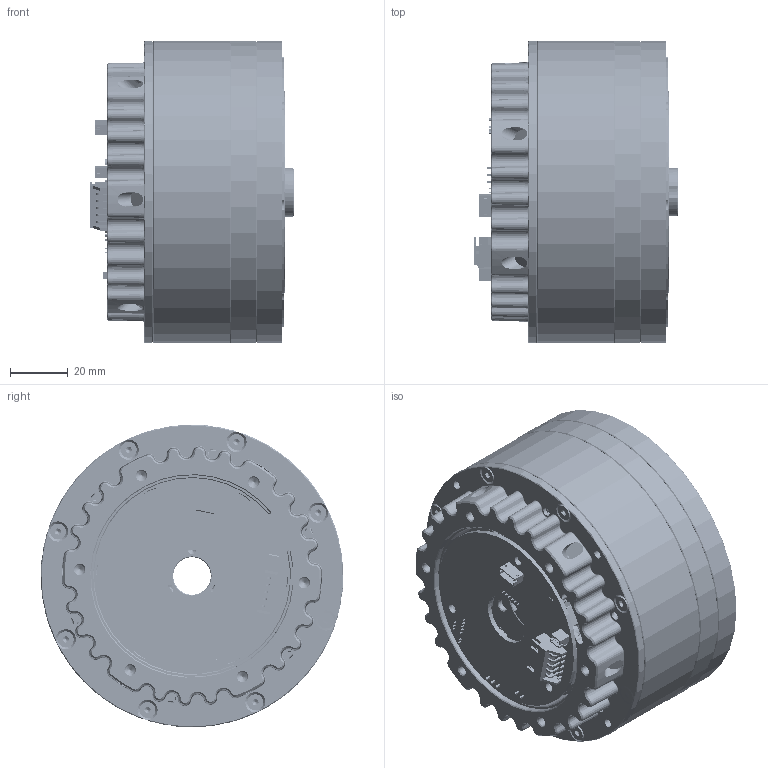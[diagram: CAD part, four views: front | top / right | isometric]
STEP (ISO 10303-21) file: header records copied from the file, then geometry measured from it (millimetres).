
FILE_DESCRIPTION(/* description */ (''),/* implementation_level */ '2;1');
FILE_NAME(/* name */ 'C:\Users\jvonderlaake\igus GmbH\T-DE-P-ReBel - ReBeL EW\12_CAD Promo\Rl-SE-105_Detail.stp',/* time_stamp */ '2021-03-04T08:49:21+01:00',/* author */ ('jhellwig'),/* organization */ (''),/* preprocessor_version */ 'ST-DEVELOPER v18.1',/* originating_system */ 'Autodesk Inventor 2020',/* authorisation */ '');
FILE_SCHEMA (('AUTOMOTIVE_DESIGN { 1 0 10303 214 3 1 1 }'));
Length unit declared in the file: millimetre
Products named in the file (29): D00177761.iam; D00255568; D00173557.ipt; D00171606.ipt; D00276529.ipt; D00273675.ipt; D00284973; D00057269.ipt; D00274503.ipt; D00275388.ipt; D00068584.ipt; D00068551.ipt; D00173559.ipt; D00178086.ipt; D00069042.ipt; D00068586.iam; D00068587.ipt; D00243153.ipt; D00240155.ipt; D00068579.iam; D00277613.ipt; D00068581.ipt; D00068585; D00179957.ipt; D00177829.ipt; D00070665.ipt; D00197753.ipt; D00275390.ipt; D00177977.ipt
Assembly tree (93 placements, depth 3):
  D00177761.iam
    D00255568  x2
    D00069042.ipt  x2
    D00173557.ipt
    D00171606.ipt  x2
    D00276529.ipt  x2
    D00273675.ipt  x2
    D00284973  x4
    D00057269.ipt
    D00274503.ipt
    D00275388.ipt
    D00068584.ipt
    D00068551.ipt
    D00173559.ipt
    D00178086.ipt
    D00068586.iam
      D00068587.ipt  x20
      D00243153.ipt  x12
    D00240155.ipt
    D00068579.iam
      D00277613.ipt
      D00068581.ipt
      D00068585  x14
    D00179957.ipt
    D00177829.ipt
    D00070665.ipt  x8
    D00197753.ipt  x8
    D00275390.ipt
    D00177977.ipt
Bounding box: 70.76 x 105 x 105 mm (x, y, z)
Volume: 316311.1 mm3; surface area: 302146.4 mm2
Topology: 299 solids, 302 shells, 18105 faces, 51537 edges, 33914 vertices
Faces by surface type: plane 8379, cylinder 8321, cone 542, bspline 381, sphere 244, torus 238
Full cylindrical faces by diameter (mm): 0.4 x3, 0.5 x71, 0.68 x2, 0.7 x35, 0.8 x1, 0.87 x3, 0.991 x3, 1 x1, 1.194 x4, 1.3 x8, 1.567 x4, 1.783 x4, 2 x10, 2.459 x26, 2.5 x4, 3 x41, 3.2 x27, 3.242 x18, 3.4 x3, 4 x6, 5 x6, 5.5 x24, 5.54 x8, 7 x2, 8 x2, 12 x6, 13 x1, 17 x4, 17.6 x1, 18 x1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
Entity records: 462944 total; most frequent: CARTESIAN_POINT 99848, ORIENTED_EDGE 75502, DIRECTION 74215, EDGE_CURVE 37754, AXIS2_PLACEMENT_3D 25473, VERTEX_POINT 24984, LINE 23269, VECTOR 23269
